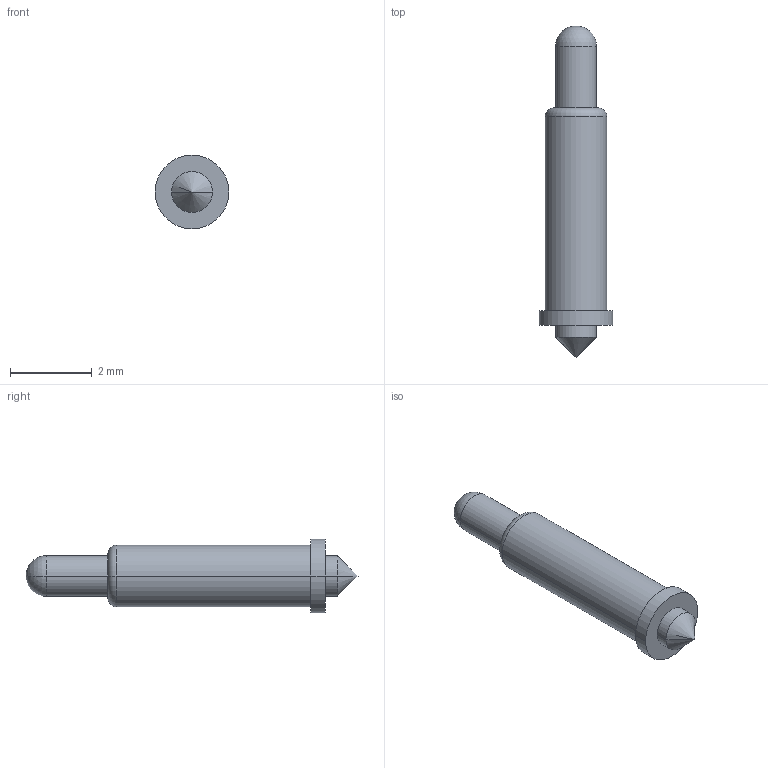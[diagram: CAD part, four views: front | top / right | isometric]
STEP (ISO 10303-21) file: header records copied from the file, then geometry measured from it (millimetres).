
FILE_DESCRIPTION((''),'2;1');
FILE_NAME('JB150D810B-01','2020-10-27T',('lenovo'),(''),'PRO/ENGINEER BY PARAMETRIC TECHNOLOGY CORPORATION, 2008380','PRO/ENGINEER BY PARAMETRIC TECHNOLOGY CORPORATION, 2008380','');
FILE_SCHEMA(('CONFIG_CONTROL_DESIGN'));
Length unit declared in the file: millimetre
Products named in the file (1): JB150D810B-01
Bounding box: 1.8 x 8.1 x 1.8 mm (x, y, z)
Volume: 11.4 mm3; surface area: 36.7 mm2
Topology: 1 solids, 1 shells, 17 faces, 36 edges, 20 vertices
Faces by surface type: cylinder 8, plane 3, cone 2, torus 2, sphere 2
Entity records: 474 total; most frequent: DIRECTION 88, CARTESIAN_POINT 69, ORIENTED_EDGE 64, AXIS2_PLACEMENT_3D 39, EDGE_CURVE 32, CIRCLE 22, VERTEX_POINT 20, EDGE_LOOP 20
